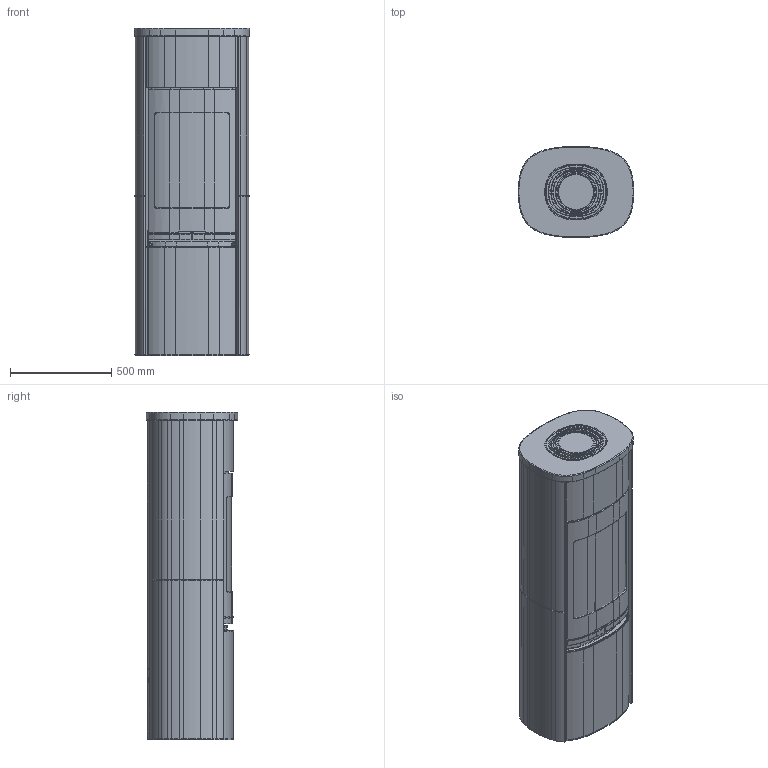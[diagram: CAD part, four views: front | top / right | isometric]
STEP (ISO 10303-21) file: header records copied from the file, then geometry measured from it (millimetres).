
FILE_DESCRIPTION(/* description */ ('Unknown'),/* implementation_level */ '2;1');
FILE_NAME(/* name */ 'DSN1111659_0_asm',/* time_stamp */ '2025-02-28T16:53:21+01:00',/* author */ ('Unknown'),/* organization */ ('NIBE AB'),/* preprocessor_version */ 'ST-DEVELOPER v18.102',/* originating_system */ 'Solid Edge',/* authorisation */ 'Unknown');
FILE_SCHEMA (('CONFIG_CONTROL_DESIGN'));
Products named in the file (10): DSN1111659; DSN1111629; DSN1111648; DSN1110955; DSN1111155; DSN1111115; DSN1111641; DSN1111660; DSN1110998; DSN1110968
Assembly tree (9 placements, depth 2):
  DSN1111659
    DSN1111629
    DSN1111648
    DSN1110955
    DSN1111155
    DSN1111115
    DSN1111641
    DSN1111660
    DSN1110998
    DSN1110968
Bounding box: 571.53 x 451.02 x 1620 mm (x, y, z)
Volume: 294992546.4 mm3; surface area: 11852754.3 mm2
Topology: 9 solids, 9 shells, 1674 faces, 4236 edges, 2616 vertices
Faces by surface type: plane 441, cylinder 436, bspline 354, cone 226, torus 203, sphere 14
Full cylindrical faces by diameter (mm): 5 x5, 176.4 x1, 180.592 x1, 213.2 x1
Entity records: 82753 total; most frequent: CARTESIAN_POINT 39703, ORIENTED_EDGE 8384, DIRECTION 7592, EDGE_CURVE 4192, AXIS2_PLACEMENT_3D 3007, VERTEX_POINT 2610, FACE_BOUND 1766, EDGE_LOOP 1765
